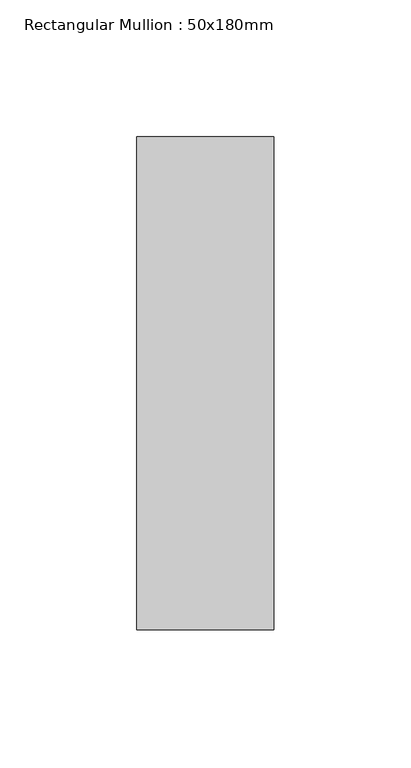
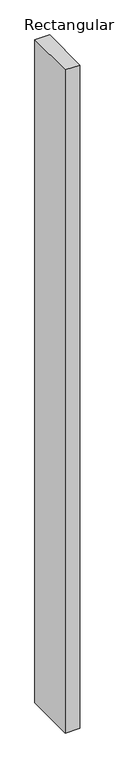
"""IFC4 building model written with IfcOpenShell, lengths in millimetres: member geometry, Rectangular Mullion : 50x180mm."""

from ifc_helpers import new_model, si_unit, frame, origin, place, context, project, spatial, polyline, outline, extrude, source, transform, mapped, element, save


def rectangular_mullion_50x180mm_cd79a6a2(model_context):
    return source(origin(), model_context, "Body", "SweptSolid", [
        extrude(outline(polyline([(25.0, 90.0), (25.0, -90.0), (-25.0, -90.0), (-25.0, 90.0), (25.0, 90.0)])), frame((0.0, 0.0, -2400.0), z_axis=(0.0, 0.0, 1.0), x_axis=(1.0, 0.0, 0.0)), (0.0, 0.0, 1.0), 2400.0),
    ])


if __name__ == "__main__":
    model = new_model("IFC4")
    model_context = context("Model", 3, world=origin())
    ifc_project = project(units=[si_unit("LENGTHUNIT", "METRE", prefix="MILLI")], contexts=[model_context])
    site = spatial("IfcSite", under=ifc_project)
    building = spatial("IfcBuilding", under=site)
    placement = place(None, origin())
    rectangular_mullion_50x180mm_shape = rectangular_mullion_50x180mm_cd79a6a2(model_context)
    element("IfcMember", 1, ObjectType="Rectangular Mullion : 50x180mm", at=placement, inside=building, context=model_context, shape_type="MappedRepresentation", body=[
        mapped(rectangular_mullion_50x180mm_shape, transform((0.0, 0.0, 0.0), x_axis=(1.0, 0.0, 0.0), y_axis=(0.0, 1.0, 0.0), z_axis=(0.0, 0.0, 1.0))),
    ])
    save(model, "model.ifc")
